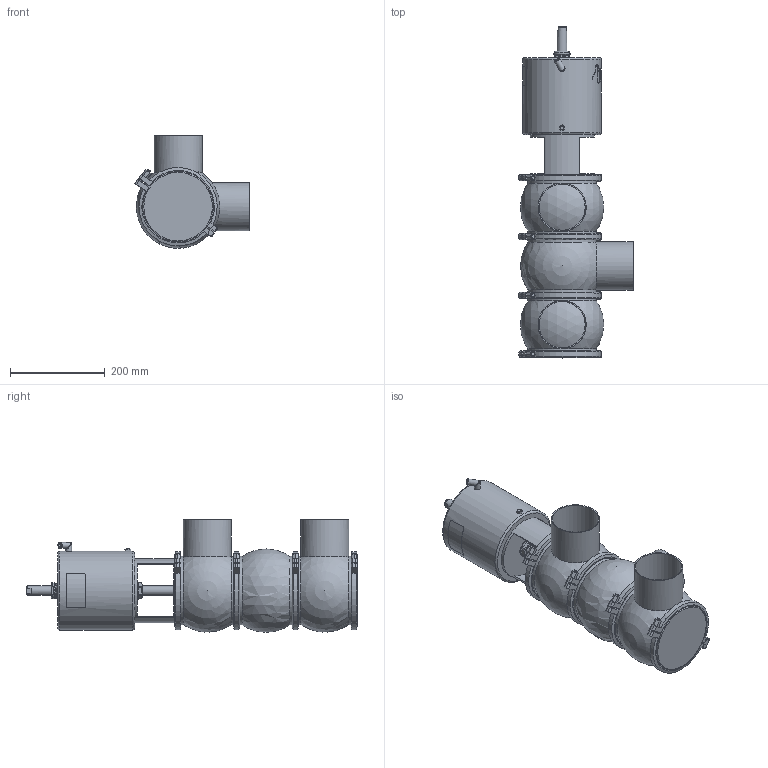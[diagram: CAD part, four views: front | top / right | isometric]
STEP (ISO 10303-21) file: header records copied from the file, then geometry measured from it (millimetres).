
FILE_DESCRIPTION (( 'STEP AP214' ), '1' );
FILE_NAME ('INNOVA L J W OD 4 T4 AS NC_10.241.16.0013.STEP', '2024-08-07T07:51:15', ( '' ), ( '' ), 'SwSTEP 2.0', 'SolidWorks 2023', '' );
FILE_SCHEMA (( 'AUTOMOTIVE_DESIGN' ));
Length unit declared in the file: millimetre
Products named in the file (6): 10.240.15.0006_OD 4"; 10.240.15.0010_DN 100; 10.240.15.0014_T4 AS P180; INNOVA L J W OD 4 T4 AS NC_10.241.16.0013; 10.240.15.0001_DN 100; 10.241.15.0001_DIN 100
Assembly tree (10 placements, depth 2):
  INNOVA L J W OD 4 T4 AS NC_10.241.16.0013
    10.240.15.0006_OD 4"  x3
    10.240.15.0010_DN 100
    10.240.15.0014_T4 AS P180
    10.240.15.0001_DN 100  x4
    10.241.15.0001_DIN 100
Bounding box: 241.26 x 700.5 x 238 mm (x, y, z)
Volume: 12046330.8 mm3; surface area: 857473.8 mm2
Topology: 11 solids, 11 shells, 532 faces, 1418 edges, 923 vertices
Faces by surface type: plane 260, cylinder 136, bspline 80, cone 46, sphere 6, torus 4
Full cylindrical faces by diameter (mm): 6.15 x1, 8 x9, 8.5 x1, 10.5 x1, 12.5 x3, 16 x1, 20 x2, 31 x1, 34.5 x2, 36.5 x1, 97.4 x3, 101.6 x3, 135 x1, 144.5 x7, 156.5 x8, 166 x1
Entity records: 20429 total; most frequent: CARTESIAN_POINT 11294, ORIENTED_EDGE 1598, DIRECTION 1211, EDGE_CURVE 799, VERTEX_POINT 548, AXIS2_PLACEMENT_3D 461, EDGE_LOOP 397, FACE_OUTER_BOUND 359
